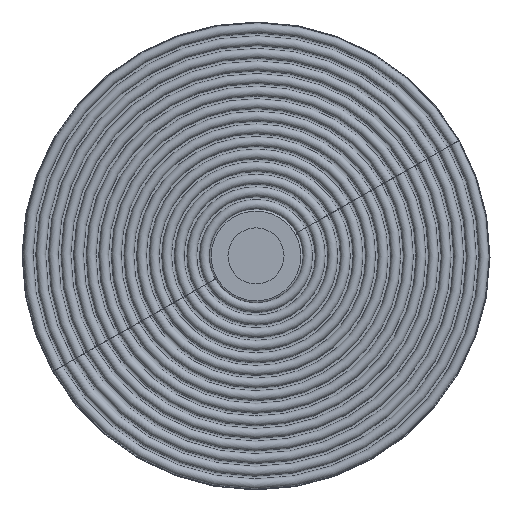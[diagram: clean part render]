
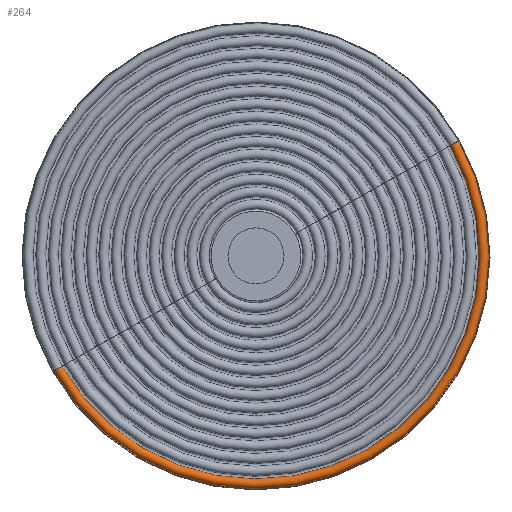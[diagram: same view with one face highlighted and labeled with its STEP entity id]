
A CAD part, top view. The second image highlights one B-rep face of the part: STEP entity #264.
In plain terms, the highlighted toroidal (fillet/blend) face has major radius 487.848 mm and minor radius 10.5 mm.
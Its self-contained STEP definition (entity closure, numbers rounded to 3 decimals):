
#150 = VERTEX_POINT ( 'NONE', #4349 ) ;
#264 = ADVANCED_FACE ( 'NONE', ( #4007 ), #5175, .T. ) ;
#577 = DIRECTION ( 'NONE',  ( 0.869, 0.494, 0. ) ) ;
#703 = CARTESIAN_POINT ( 'NONE',  ( -251.741, -260.83, 1030.089 ) ) ;
#1004 = DIRECTION ( 'NONE',  ( -0.869, -0.494, 0. ) ) ;
#1437 = EDGE_LOOP ( 'NONE', ( #7243, #13724, #14866, #7846 ) ) ;
#1774 = CARTESIAN_POINT ( 'NONE',  ( 587.442, 216.052, 1029.402 ) ) ;
#1859 = EDGE_CURVE ( 'NONE', #150, #10529, #12298, .T. ) ;
#2040 = EDGE_CURVE ( 'NONE', #8580, #12833, #11294, .T. ) ;
#2784 = CARTESIAN_POINT ( 'NONE',  ( 163.296, -24.978, 1030.089 ) ) ;
#4007 = FACE_OUTER_BOUND ( 'NONE', #1437, .T. ) ;
#4349 = CARTESIAN_POINT ( 'NONE',  ( 596.552, 221.228, 1030.089 ) ) ;
#4440 = AXIS2_PLACEMENT_3D ( 'NONE', #1774, #6272, #577 ) ;
#5175 = TOROIDAL_SURFACE ( 'NONE', #14538, 487.848, 10.5 ) ;
#5745 = EDGE_CURVE ( 'NONE', #8580, #150, #9539, .T. ) ;
#5934 = CARTESIAN_POINT ( 'NONE',  ( 578.333, 210.875, 1030.089 ) ) ;
#6272 = DIRECTION ( 'NONE',  ( 0.494, -0.869, 0. ) ) ;
#7243 = ORIENTED_EDGE ( 'NONE', *, *, #5745, .T. ) ;
#7690 = EDGE_CURVE ( 'NONE', #12833, #10529, #14113, .T. ) ;
#7846 = ORIENTED_EDGE ( 'NONE', *, *, #2040, .F. ) ;
#8580 = VERTEX_POINT ( 'NONE', #10199 ) ;
#8873 = DIRECTION ( 'NONE',  ( -0.869, -0.494, 0. ) ) ;
#8948 = CARTESIAN_POINT ( 'NONE',  ( 163.296, -24.978, 1029.402 ) ) ;
#9232 = CARTESIAN_POINT ( 'NONE',  ( -260.851, -266.007, 1029.402 ) ) ;
#9304 = DIRECTION ( 'NONE',  ( -0.494, 0.869, 0. ) ) ;
#9533 = AXIS2_PLACEMENT_3D ( 'NONE', #9232, #9304, #13002 ) ;
#9539 = CIRCLE ( 'NONE', #11812, 498.325 ) ;
#9940 = DIRECTION ( 'NONE',  ( -0.869, -0.494, 0. ) ) ;
#10199 = CARTESIAN_POINT ( 'NONE',  ( -269.96, -271.184, 1030.089 ) ) ;
#10529 = VERTEX_POINT ( 'NONE', #5934 ) ;
#11294 = CIRCLE ( 'NONE', #9533, 10.5 ) ;
#11344 = AXIS2_PLACEMENT_3D ( 'NONE', #14019, #13044, #1004 ) ;
#11812 = AXIS2_PLACEMENT_3D ( 'NONE', #2784, #13417, #9940 ) ;
#12298 = CIRCLE ( 'NONE', #4440, 10.5 ) ;
#12833 = VERTEX_POINT ( 'NONE', #703 ) ;
#13002 = DIRECTION ( 'NONE',  ( -0.869, -0.494, 0. ) ) ;
#13044 = DIRECTION ( 'NONE',  ( 0., 0., 1. ) ) ;
#13417 = DIRECTION ( 'NONE',  ( 0., 0., 1. ) ) ;
#13724 = ORIENTED_EDGE ( 'NONE', *, *, #1859, .T. ) ;
#14019 = CARTESIAN_POINT ( 'NONE',  ( 163.296, -24.978, 1030.089 ) ) ;
#14113 = CIRCLE ( 'NONE', #11344, 477.37 ) ;
#14538 = AXIS2_PLACEMENT_3D ( 'NONE', #8948, #14877, #8873 ) ;
#14866 = ORIENTED_EDGE ( 'NONE', *, *, #7690, .F. ) ;
#14877 = DIRECTION ( 'NONE',  ( 0., 0., 1. ) ) ;
